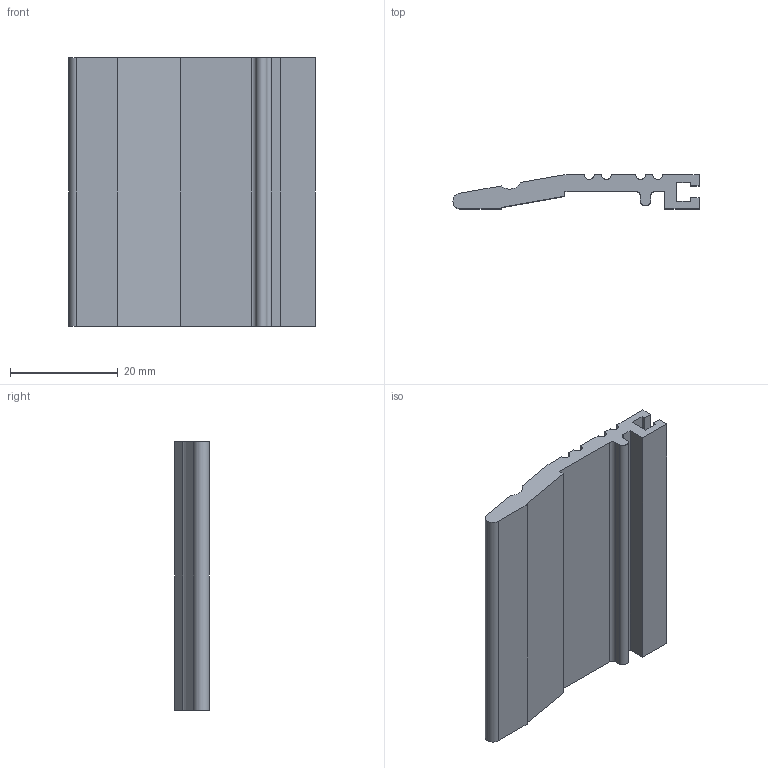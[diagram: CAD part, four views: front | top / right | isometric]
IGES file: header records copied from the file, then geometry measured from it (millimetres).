
Global section: file name: No Iges File Name specified; native system: Autodesk Inventor 2012; preprocessor: AutoDesk Inventor Iges Exporter R2012; author: anna.b; date: 20170316.095915; units: millimetre
Bounding box: 45.8 x 6.35 x 50 mm (x, y, z)
Volume: 7991.7 mm3; surface area: 6517.2 mm2
Topology: 1 solids, 1 shells, 37 faces, 105 edges, 70 vertices
Faces by surface type: plane 28, revolution 7, cylinder 2
